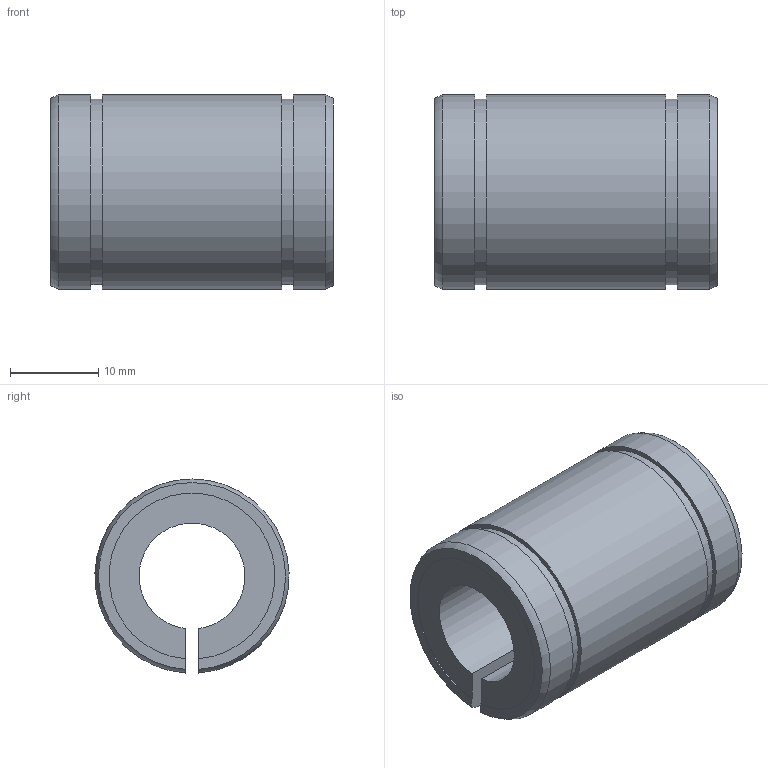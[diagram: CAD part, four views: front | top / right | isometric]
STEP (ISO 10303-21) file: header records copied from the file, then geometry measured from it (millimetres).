
FILE_DESCRIPTION((''),'2;1');
FILE_NAME('D:\製品 (図面)\カタログ用3D\リニアベアリング関連\STEP形式\LE-ADJ\LE12-ADJ.stp','2010-06-03T09:07:27',('Tsuchiya'),(''),'Autodesk Inventor 10','Autodesk Inventor 10','');
FILE_SCHEMA(('AUTOMOTIVE_DESIGN { 1 0 10303 214 1 1 1 1 }'));
Length unit declared in the file: millimetre
Products named in the file (1): LE12-ADJ
Bounding box: 32 x 21.99 x 21.97 mm (x, y, z)
Volume: 8165.4 mm3; surface area: 4241.9 mm2
Topology: 1 solids, 1 shells, 20 faces, 54 edges, 36 vertices
Faces by surface type: plane 10, cylinder 8, torus 2
Entity records: 687 total; most frequent: CARTESIAN_POINT 147, DIRECTION 110, ORIENTED_EDGE 108, EDGE_CURVE 54, AXIS2_PLACEMENT_3D 39, VERTEX_POINT 36, VECTOR 32, LINE 32
